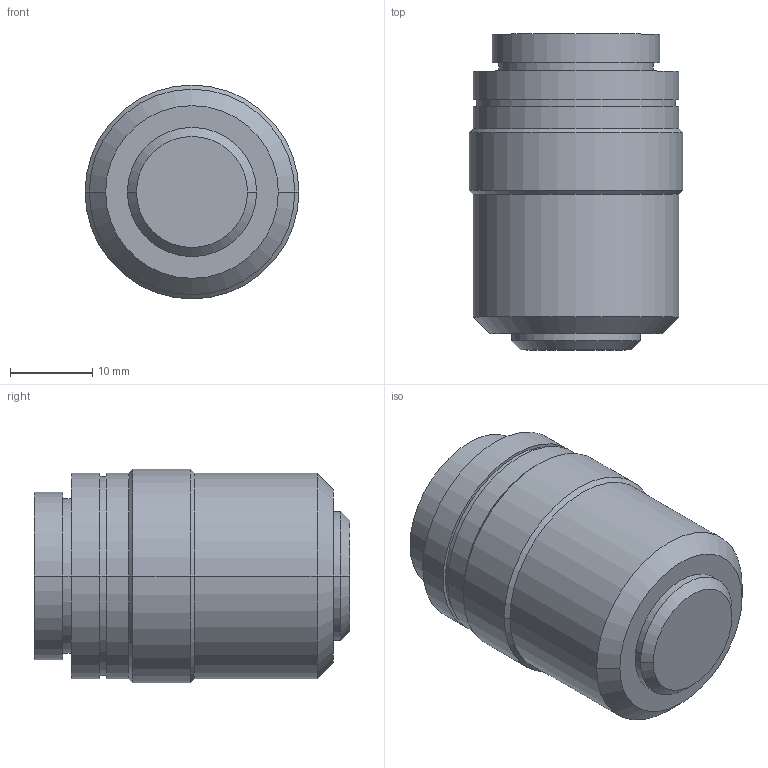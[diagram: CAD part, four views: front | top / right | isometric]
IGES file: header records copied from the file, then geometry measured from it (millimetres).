
Global section: file name: No Iges File Name specified; native system: AutoDesk Inventor R12.0; preprocessor: AutoDesk Inventor Iges Exporter R12.0; author: No Author specified; organization: No Organization specified; date: 20090422.093603; units: millimetre
Bounding box: 26 x 38.4 x 26 mm (x, y, z)
Volume: 17561.9 mm3; surface area: 3950.1 mm2
Topology: 1 solids, 1 shells, 31 faces, 60 edges, 36 vertices
Faces by surface type: cylinder 16, cone 8, plane 7
